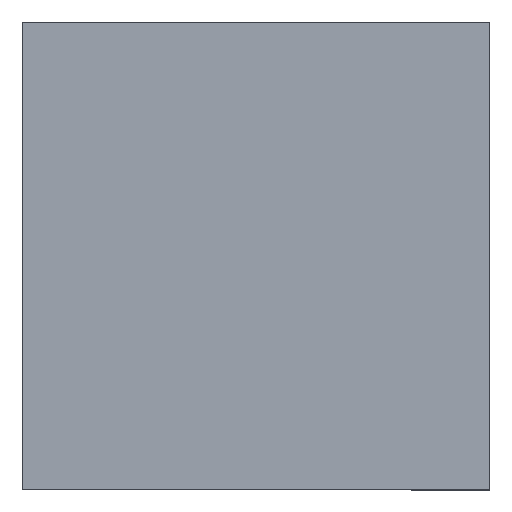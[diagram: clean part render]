
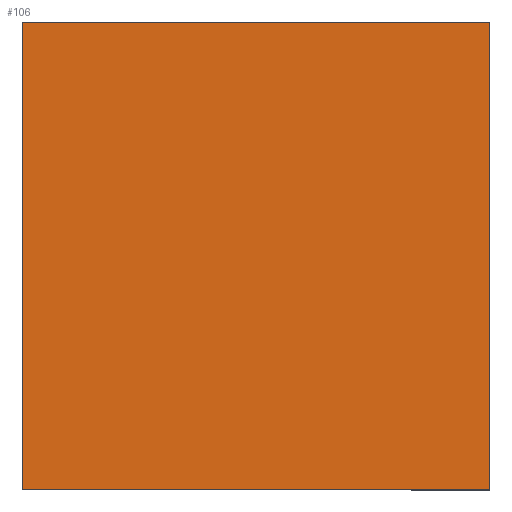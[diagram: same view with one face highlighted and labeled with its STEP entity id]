
A CAD part, top view. The second image highlights one B-rep face of the part: STEP entity #106.
In plain terms, the highlighted planar face has unit normal (0, 0, 1).
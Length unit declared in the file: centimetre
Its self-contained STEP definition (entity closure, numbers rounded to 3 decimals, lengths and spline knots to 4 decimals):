
#1 = ORIENTED_EDGE ( 'NONE', *, *, #130, .T. ) ;
#6 = LINE ( 'NONE', #216, #233 ) ;
#27 = DIRECTION ( 'NONE',  ( -1., 0., 0. ) ) ;
#32 = ORIENTED_EDGE ( 'NONE', *, *, #395, .T. ) ;
#47 = VERTEX_POINT ( 'NONE', #331 ) ;
#74 = EDGE_LOOP ( 'NONE', ( #158, #1, #280, #32 ) ) ;
#81 = DIRECTION ( 'NONE',  ( 1., 0., 0. ) ) ;
#89 = LINE ( 'NONE', #363, #143 ) ;
#91 = EDGE_CURVE ( 'NONE', #424, #213, #410, .T. ) ;
#98 = VECTOR ( 'NONE', #282, 100. ) ;
#106 = ADVANCED_FACE ( 'NONE', ( #279 ), #348, .T. ) ;
#130 = EDGE_CURVE ( 'NONE', #213, #411, #6, .T. ) ;
#143 = VECTOR ( 'NONE', #27, 100. ) ;
#152 = AXIS2_PLACEMENT_3D ( 'NONE', #415, #312, #249 ) ;
#158 = ORIENTED_EDGE ( 'NONE', *, *, #91, .T. ) ;
#198 = CARTESIAN_POINT ( 'NONE',  ( 0., 1000., 1000. ) ) ;
#213 = VERTEX_POINT ( 'NONE', #320 ) ;
#216 = CARTESIAN_POINT ( 'NONE',  ( 0., 0., 1000. ) ) ;
#218 = DIRECTION ( 'NONE',  ( 0., 1., 0. ) ) ;
#233 = VECTOR ( 'NONE', #81, 100. ) ;
#249 = DIRECTION ( 'NONE',  ( 1., 0., 0. ) ) ;
#271 = EDGE_CURVE ( 'NONE', #411, #47, #316, .T. ) ;
#279 = FACE_OUTER_BOUND ( 'NONE', #74, .T. ) ;
#280 = ORIENTED_EDGE ( 'NONE', *, *, #271, .T. ) ;
#282 = DIRECTION ( 'NONE',  ( 0., -1., 0. ) ) ;
#308 = CARTESIAN_POINT ( 'NONE',  ( 1000., 1000., 1000. ) ) ;
#312 = DIRECTION ( 'NONE',  ( 0., 0., 1. ) ) ;
#316 = LINE ( 'NONE', #308, #390 ) ;
#320 = CARTESIAN_POINT ( 'NONE',  ( 0., 0., 1000. ) ) ;
#331 = CARTESIAN_POINT ( 'NONE',  ( 1000., 1000., 1000. ) ) ;
#340 = CARTESIAN_POINT ( 'NONE',  ( 0., 1000., 1000. ) ) ;
#348 = PLANE ( 'NONE',  #152 ) ;
#363 = CARTESIAN_POINT ( 'NONE',  ( 0., 1000., 1000. ) ) ;
#390 = VECTOR ( 'NONE', #218, 100. ) ;
#394 = CARTESIAN_POINT ( 'NONE',  ( 1000., 0., 1000. ) ) ;
#395 = EDGE_CURVE ( 'NONE', #47, #424, #89, .T. ) ;
#410 = LINE ( 'NONE', #340, #98 ) ;
#411 = VERTEX_POINT ( 'NONE', #394 ) ;
#415 = CARTESIAN_POINT ( 'NONE',  ( 0., 0., 1000. ) ) ;
#424 = VERTEX_POINT ( 'NONE', #198 ) ;
